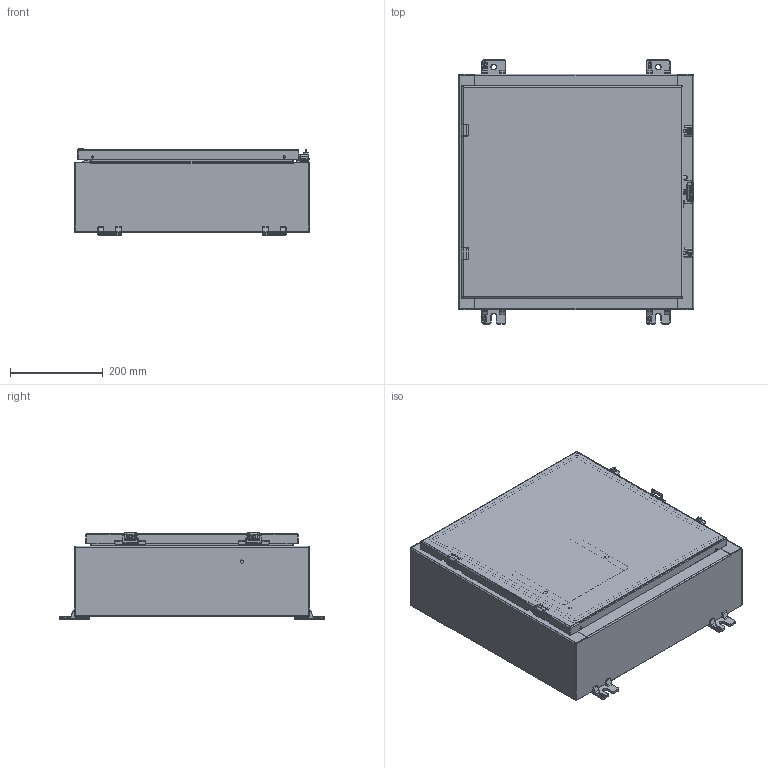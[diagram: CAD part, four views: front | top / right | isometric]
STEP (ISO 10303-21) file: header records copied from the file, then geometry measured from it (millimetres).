
FILE_DESCRIPTION((''),'2;1');
FILE_NAME('MODEL-309_ASM','2024-09-26T10:38:27',('richards'),('SAGINAW CONTROL & ENGINEERING'),'CREO PARAMETRIC BY PTC INC, 2021284','CREO PARAMETRIC BY PTC INC, 2021284','');
FILE_SCHEMA(('AUTOMOTIVE_DESIGN { 1 0 10303 214 1 1 1 1 }'));
Length unit declared in the file: inch
Products named in the file (35): MODEL-309-BDY; MODEL-309-TP; MODEL-309-BTM; MODEL-309-DR; 100837; 100882; 111541; MODEL-309-DOOR-GASKET; 126391; 126391_ASM; 126393; 102483; 101226; 101376; 102140; 115117; MODEL-309-DOOR-ASSY_ASM; 128630; 100059; 128630_ASM; 100921; 128631; 128631_ASM; 101651; 121452; 120132_BASE; 120132_CLAMP; 120132_SCREW; 120132_SPRING; 120132_ASM; 120133; SUBPANEL; 100904; SUBPANEL-SUBASSEMBLY_ASM; MODEL-309_ASM
Assembly tree (65 placements, depth 4):
  MODEL-309_ASM
    MODEL-309-BDY
    MODEL-309-TP
    MODEL-309-BTM
    MODEL-309-DOOR-ASSY_ASM
      MODEL-309-DR
      100837  x3
      100882  x2
      111541
      MODEL-309-DOOR-GASKET
      126391_ASM  x2
        126391
      126393  x2
      102483  x7
      101226  x2
      101376  x2
      102140  x2
      115117
    128630_ASM  x2
      128630
      100059
    100921  x4
    128631_ASM  x2
      128631
      100059
    100837
    101651  x4
    121452
    120132_ASM  x2
      120132_BASE
      120132_CLAMP
      120132_SCREW
      120132_SPRING
    100882  x3
    120133
    SUBPANEL-SUBASSEMBLY_ASM
      SUBPANEL
      100904  x4
Bounding box: 508 x 571.5 x 186.51 mm (x, y, z)
Volume: 2721443 mm3; surface area: 2466846 mm2
Topology: 65 solids, 65 shells, 4698 faces, 12019 edges, 7540 vertices
Faces by surface type: plane 1717, cylinder 1285, bspline 929, torus 526, cone 140, sphere 101
Entity records: 111839 total; most frequent: CARTESIAN_POINT 35331, ORIENTED_EDGE 11300, DIRECTION 10926, PRESENTATION_STYLE_ASSIGNMENT 5783, STYLED_ITEM 5783, CURVE_STYLE 5650, EDGE_CURVE 5650, AXIS2_PLACEMENT_3D 4075
